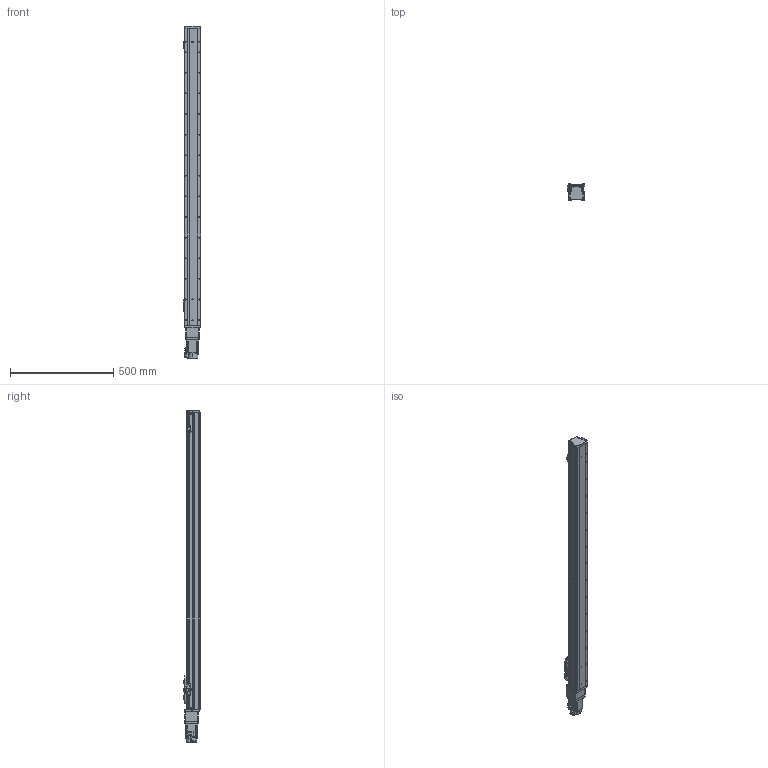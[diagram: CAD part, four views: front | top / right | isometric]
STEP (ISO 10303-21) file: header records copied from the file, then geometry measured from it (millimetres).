
FILE_DESCRIPTION (( 'STEP AP203' ), '1' );
FILE_NAME ('GTH8-1250-BC-M20-C4.step', '2023-08-28T00:53:47', ( '微软用户' ), ( '微软中国' ), 'SwSTEP 2.0', 'SolidWorks 2020', '' );
FILE_SCHEMA (( 'CONFIG_CONTROL_DESIGN' ));
Length unit declared in the file: millimetre
Products named in the file (19): CTHA86-013; GTH80-004; GTH80-028; CTHA86-027; GTH80-006; GTH50-024; 三菱伺服电机[HG-KN23J-S100]; GTH80-013; GTH50-023; GTH8-1250-BC-M20-C4; GBT 70.3-M3℅6; GBT96.1-2002 3×0.8; GTH80-022; BTH-M3X5X6; GTH80-001_1250; GBT 70.1-M3℅6; CTHA86-006-1_CTHA86-006-2; GTH80-003; GBT 70.1-M4×16
Assembly tree (60 placements, depth 2):
  GTH8-1250-BC-M20-C4
    GTH80-001_1250
    GTH80-003
    GTH80-004
    GTH80-006
    GTH80-013
    GBT 70.3-M3℅6  x6
    GTH80-022
    GBT 70.1-M3℅6  x14
    GBT 70.1-M4×16  x8
    GTH80-028  x2
    GTH50-024  x3
    GTH50-023  x3
    GBT96.1-2002 3×0.8  x6
    BTH-M3X5X6  x8
    CTHA86-006-1_CTHA86-006-2
    CTHA86-013
    CTHA86-027
    三菱伺服电机[HG-KN23J-S100]
Bounding box: 86.9 x 78 x 1611 mm (x, y, z)
Volume: 6969677.8 mm3; surface area: 660400.8 mm2
Topology: 62 solids, 62 shells, 2207 faces, 5126 edges, 3133 vertices
Faces by surface type: plane 1137, cylinder 621, cone 285, torus 154, sphere 8, bspline 2
Entity records: 40385 total; most frequent: CARTESIAN_POINT 8537, DIRECTION 6041, ORIENTED_EDGE 5842, EDGE_CURVE 2921, AXIS2_PLACEMENT_3D 2089, LINE 1863, VECTOR 1863, VERTEX_POINT 1846
